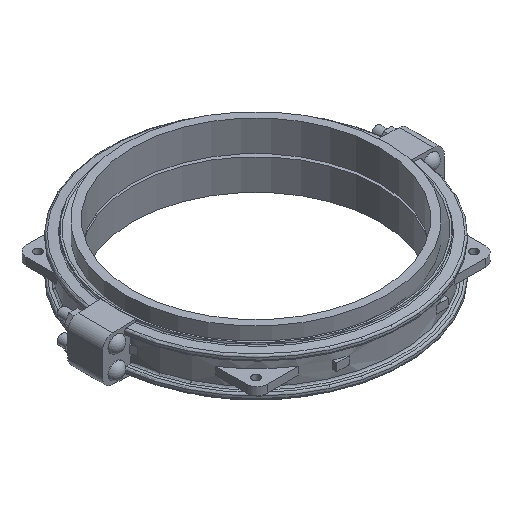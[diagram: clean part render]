
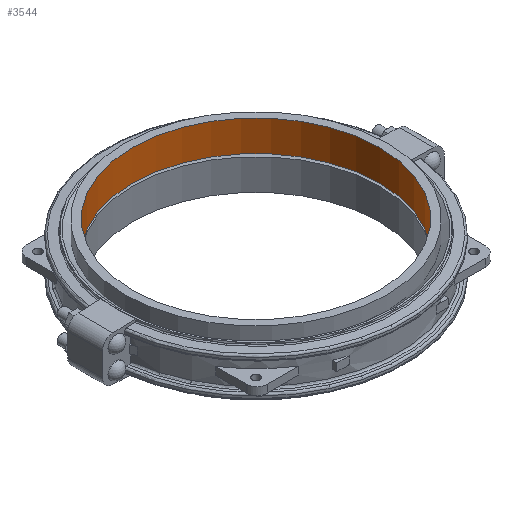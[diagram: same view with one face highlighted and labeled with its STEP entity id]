
A CAD part, isometric view. The second image highlights one B-rep face of the part: STEP entity #3544.
In plain terms, the highlighted cylindrical face has radius 406.4 mm (diameter 812.8 mm), a full revolution.
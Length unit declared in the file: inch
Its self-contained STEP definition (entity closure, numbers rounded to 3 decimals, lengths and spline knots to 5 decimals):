
#158=CYLINDRICAL_SURFACE('',#3979,16.);
#382=FACE_OUTER_BOUND('',#606,.T.);
#606=EDGE_LOOP('',(#3060,#3061,#3062,#3063,#3064,#3065));
#865=LINE('',#6479,#1122);
#1122=VECTOR('',#4960,16.);
#1291=CIRCLE('',#3977,16.);
#1292=CIRCLE('',#3978,16.);
#1293=CIRCLE('',#3980,16.);
#1294=CIRCLE('',#3981,16.);
#1623=VERTEX_POINT('',#6473);
#1624=VERTEX_POINT('',#6474);
#1625=VERTEX_POINT('',#6478);
#1626=VERTEX_POINT('',#6480);
#2103=EDGE_CURVE('',#1623,#1624,#1291,.T.);
#2104=EDGE_CURVE('',#1624,#1623,#1292,.T.);
#2105=EDGE_CURVE('',#1624,#1625,#865,.T.);
#2106=EDGE_CURVE('',#1626,#1625,#1293,.T.);
#2107=EDGE_CURVE('',#1625,#1626,#1294,.T.);
#3060=ORIENTED_EDGE('',*,*,#2103,.T.);
#3061=ORIENTED_EDGE('',*,*,#2105,.T.);
#3062=ORIENTED_EDGE('',*,*,#2106,.F.);
#3063=ORIENTED_EDGE('',*,*,#2107,.F.);
#3064=ORIENTED_EDGE('',*,*,#2105,.F.);
#3065=ORIENTED_EDGE('',*,*,#2104,.T.);
#3544=ADVANCED_FACE('',(#382),#158,.F.);
#3977=AXIS2_PLACEMENT_3D('',#6475,#4954,#4955);
#3978=AXIS2_PLACEMENT_3D('',#6476,#4956,#4957);
#3979=AXIS2_PLACEMENT_3D('',#6477,#4958,#4959);
#3980=AXIS2_PLACEMENT_3D('',#6481,#4961,#4962);
#3981=AXIS2_PLACEMENT_3D('',#6482,#4963,#4964);
#4954=DIRECTION('center_axis',(0.,0.,-1.));
#4955=DIRECTION('ref_axis',(1.,0.,0.));
#4956=DIRECTION('center_axis',(0.,0.,-1.));
#4957=DIRECTION('ref_axis',(1.,0.,0.));
#4958=DIRECTION('center_axis',(0.,0.,-1.));
#4959=DIRECTION('ref_axis',(0.,1.,0.));
#4960=DIRECTION('',(0.,0.,1.));
#4961=DIRECTION('center_axis',(0.,0.,-1.));
#4962=DIRECTION('ref_axis',(1.,0.,0.));
#4963=DIRECTION('center_axis',(0.,0.,-1.));
#4964=DIRECTION('ref_axis',(1.,0.,0.));
#6473=CARTESIAN_POINT('',(0.,16.,0.));
#6474=CARTESIAN_POINT('',(0.,-16.,0.));
#6475=CARTESIAN_POINT('Origin',(0.,0.,0.));
#6476=CARTESIAN_POINT('Origin',(0.,0.,0.));
#6477=CARTESIAN_POINT('Origin',(0.,0.,2.));
#6478=CARTESIAN_POINT('',(0.,-16.,4.));
#6479=CARTESIAN_POINT('',(0.,-16.,2.));
#6480=CARTESIAN_POINT('',(0.,16.,4.));
#6481=CARTESIAN_POINT('Origin',(0.,0.,4.));
#6482=CARTESIAN_POINT('Origin',(0.,0.,4.));
